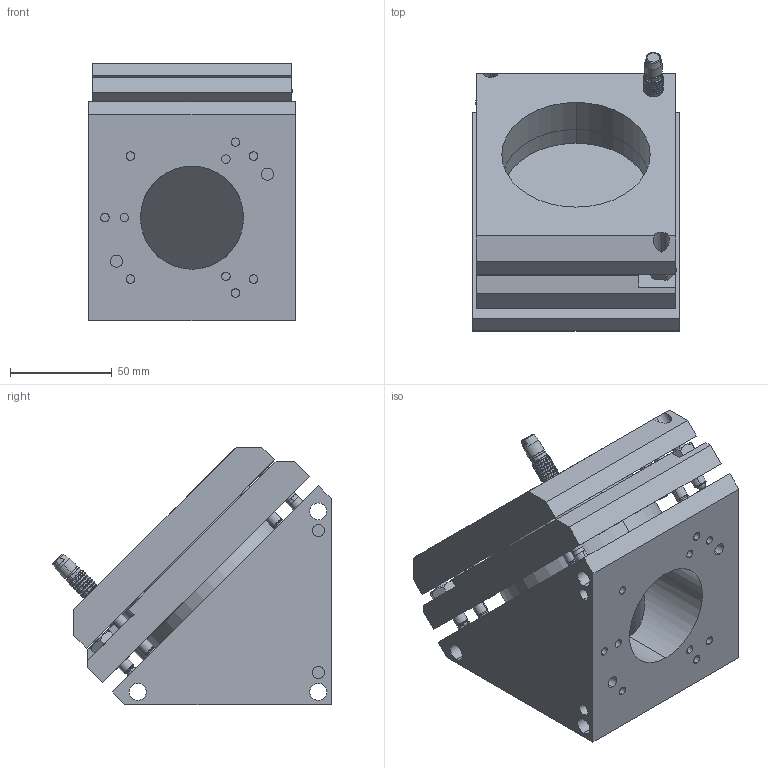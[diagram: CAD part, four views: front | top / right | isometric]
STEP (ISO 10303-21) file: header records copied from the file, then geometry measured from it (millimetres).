
FILE_DESCRIPTION (( 'STEP AP214' ), '1' );
FILE_NAME ('BBK-50-76127-MI.STEP', '2017-05-01T20:45:41', ( '' ), ( '' ), 'SwSTEP 2.0', 'SolidWorks 2017', '' );
FILE_SCHEMA (( 'AUTOMOTIVE_DESIGN' ));
Length unit declared in the file: inch
Products named in the file (1): BBK-50-76127-MI
Bounding box: 101.6 x 137.1 x 126.85 mm (x, y, z)
Volume: 957672.8 mm3; surface area: 177258.6 mm2
Topology: 24 solids, 24 shells, 1272 faces, 2782 edges, 1646 vertices
Faces by surface type: plane 528, cylinder 370, cone 340, torus 20, bspline 8, sphere 6
Entity records: 35432 total; most frequent: CARTESIAN_POINT 7701, DIRECTION 5819, ORIENTED_EDGE 5544, EDGE_CURVE 2772, AXIS2_PLACEMENT_3D 2309, VERTEX_POINT 1646, EDGE_LOOP 1382, ADVANCED_FACE 1272
